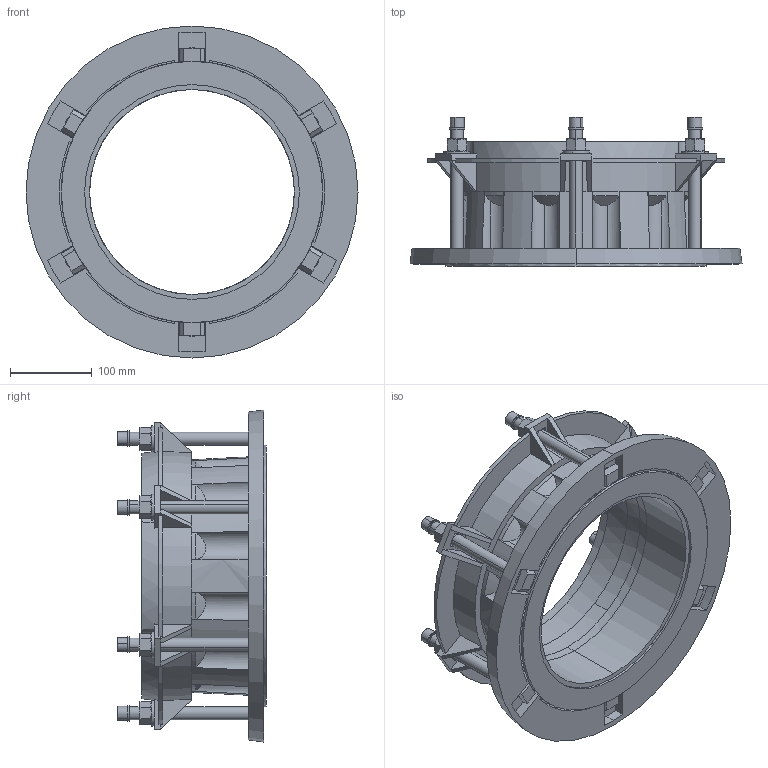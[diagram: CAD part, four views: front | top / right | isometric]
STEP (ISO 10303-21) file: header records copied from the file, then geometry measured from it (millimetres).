
FILE_DESCRIPTION (( 'STEP AP203' ), '1' );
FILE_NAME ('O_623_10_DN200-250mm_X2XXXXX_REV01.step', '2020-04-17T09:05:13', ( '' ), ( '' ), 'SwSTEP 2.0', 'SolidWorks 2019', '' );
FILE_SCHEMA (( 'CONFIG_CONTROL_DESIGN' ));
Length unit declared in the file: millimetre
Products named in the file (1): O_623_10_DN200-250mm_X2XXXXX_REV01
Bounding box: 405 x 181.5 x 405 mm (x, y, z)
Volume: 3856646.3 mm3; surface area: 663297.1 mm2
Topology: 1 solids, 1 shells, 706 faces, 1825 edges, 1148 vertices
Faces by surface type: plane 334, cylinder 235, cone 137
Entity records: 22860 total; most frequent: CARTESIAN_POINT 5452, ORIENTED_EDGE 3650, DIRECTION 3627, EDGE_CURVE 1825, AXIS2_PLACEMENT_3D 1377, VERTEX_POINT 1148, LINE 873, VECTOR 873
